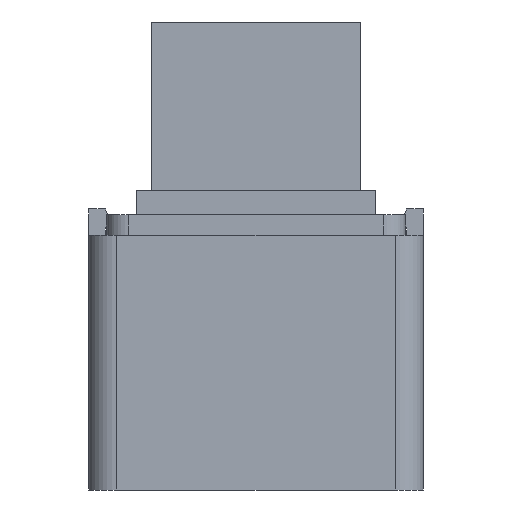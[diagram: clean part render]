
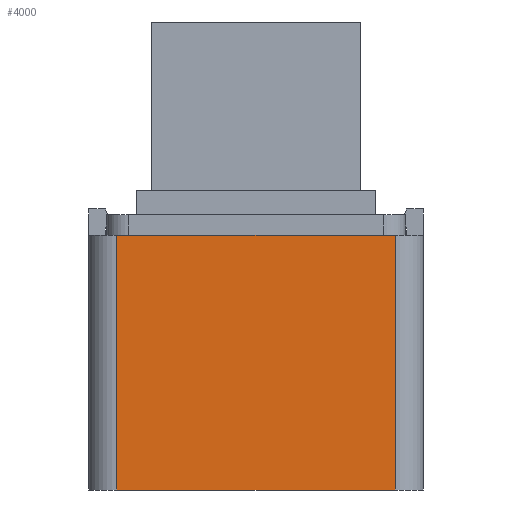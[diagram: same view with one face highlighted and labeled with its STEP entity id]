
A CAD part, front view. The second image highlights one B-rep face of the part: STEP entity #4000.
In plain terms, the highlighted planar face has unit normal (0, -1, 0).
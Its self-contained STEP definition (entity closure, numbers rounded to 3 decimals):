
#94 = PLANE('',#95);
#95 = AXIS2_PLACEMENT_3D('',#96,#97,#98);
#96 = CARTESIAN_POINT('',(-24.,-31.5,36.5));
#97 = DIRECTION('',(0.,0.,1.));
#98 = DIRECTION('',(1.,0.,0.));
#122 = CYLINDRICAL_SURFACE('',#123,4.);
#123 = AXIS2_PLACEMENT_3D('',#124,#125,#126);
#124 = CARTESIAN_POINT('',(-20.,-27.5,0.));
#125 = DIRECTION('',(0.,0.,1.));
#126 = DIRECTION('',(-1.,-0.,0.));
#150 = PLANE('',#151);
#151 = AXIS2_PLACEMENT_3D('',#152,#153,#154);
#152 = CARTESIAN_POINT('',(-24.,-31.5,0.));
#153 = DIRECTION('',(0.,0.,1.));
#154 = DIRECTION('',(1.,0.,0.));
#523 = VERTEX_POINT('',#524);
#524 = CARTESIAN_POINT('',(-20.,-31.5,36.5));
#546 = EDGE_CURVE('',#523,#547,#549,.T.);
#547 = VERTEX_POINT('',#548);
#548 = CARTESIAN_POINT('',(20.,-31.5,36.5));
#549 = SURFACE_CURVE('',#550,(#554,#561),.PCURVE_S1.);
#550 = LINE('',#551,#552);
#551 = CARTESIAN_POINT('',(-24.,-31.5,36.5));
#552 = VECTOR('',#553,1.);
#553 = DIRECTION('',(1.,0.,0.));
#554 = PCURVE('',#94,#555);
#555 = DEFINITIONAL_REPRESENTATION('',(#556),#560);
#556 = LINE('',#557,#558);
#557 = CARTESIAN_POINT('',(0.,0.));
#558 = VECTOR('',#559,1.);
#559 = DIRECTION('',(1.,0.));
#560 = ( GEOMETRIC_REPRESENTATION_CONTEXT(2) 
PARAMETRIC_REPRESENTATION_CONTEXT() REPRESENTATION_CONTEXT('2D SPACE',''
  ) );
#561 = PCURVE('',#562,#567);
#562 = PLANE('',#563);
#563 = AXIS2_PLACEMENT_3D('',#564,#565,#566);
#564 = CARTESIAN_POINT('',(-24.,-31.5,0.));
#565 = DIRECTION('',(0.,1.,0.));
#566 = DIRECTION('',(0.,0.,1.));
#567 = DEFINITIONAL_REPRESENTATION('',(#568),#572);
#568 = LINE('',#569,#570);
#569 = CARTESIAN_POINT('',(36.5,0.));
#570 = VECTOR('',#571,1.);
#571 = DIRECTION('',(0.,1.));
#572 = ( GEOMETRIC_REPRESENTATION_CONTEXT(2) 
PARAMETRIC_REPRESENTATION_CONTEXT() REPRESENTATION_CONTEXT('2D SPACE',''
  ) );
#595 = CYLINDRICAL_SURFACE('',#596,4.);
#596 = AXIS2_PLACEMENT_3D('',#597,#598,#599);
#597 = CARTESIAN_POINT('',(20.,-27.5,0.));
#598 = DIRECTION('',(0.,0.,1.));
#599 = DIRECTION('',(1.,0.,-0.));
#1107 = VERTEX_POINT('',#1108);
#1108 = CARTESIAN_POINT('',(-20.,-31.5,0.));
#1130 = EDGE_CURVE('',#1107,#523,#1131,.T.);
#1131 = SURFACE_CURVE('',#1132,(#1136,#1143),.PCURVE_S1.);
#1132 = LINE('',#1133,#1134);
#1133 = CARTESIAN_POINT('',(-20.,-31.5,0.));
#1134 = VECTOR('',#1135,1.);
#1135 = DIRECTION('',(0.,0.,1.));
#1136 = PCURVE('',#122,#1137);
#1137 = DEFINITIONAL_REPRESENTATION('',(#1138),#1142);
#1138 = LINE('',#1139,#1140);
#1139 = CARTESIAN_POINT('',(1.571,0.));
#1140 = VECTOR('',#1141,1.);
#1141 = DIRECTION('',(0.,1.));
#1142 = ( GEOMETRIC_REPRESENTATION_CONTEXT(2) 
PARAMETRIC_REPRESENTATION_CONTEXT() REPRESENTATION_CONTEXT('2D SPACE',''
  ) );
#1143 = PCURVE('',#562,#1144);
#1144 = DEFINITIONAL_REPRESENTATION('',(#1145),#1149);
#1145 = LINE('',#1146,#1147);
#1146 = CARTESIAN_POINT('',(0.,4.));
#1147 = VECTOR('',#1148,1.);
#1148 = DIRECTION('',(1.,0.));
#1149 = ( GEOMETRIC_REPRESENTATION_CONTEXT(2) 
PARAMETRIC_REPRESENTATION_CONTEXT() REPRESENTATION_CONTEXT('2D SPACE',''
  ) );
#1158 = EDGE_CURVE('',#1107,#1159,#1161,.T.);
#1159 = VERTEX_POINT('',#1160);
#1160 = CARTESIAN_POINT('',(20.,-31.5,0.));
#1161 = SURFACE_CURVE('',#1162,(#1166,#1173),.PCURVE_S1.);
#1162 = LINE('',#1163,#1164);
#1163 = CARTESIAN_POINT('',(-24.,-31.5,0.));
#1164 = VECTOR('',#1165,1.);
#1165 = DIRECTION('',(1.,0.,0.));
#1166 = PCURVE('',#150,#1167);
#1167 = DEFINITIONAL_REPRESENTATION('',(#1168),#1172);
#1168 = LINE('',#1169,#1170);
#1169 = CARTESIAN_POINT('',(0.,0.));
#1170 = VECTOR('',#1171,1.);
#1171 = DIRECTION('',(1.,0.));
#1172 = ( GEOMETRIC_REPRESENTATION_CONTEXT(2) 
PARAMETRIC_REPRESENTATION_CONTEXT() REPRESENTATION_CONTEXT('2D SPACE',''
  ) );
#1173 = PCURVE('',#562,#1174);
#1174 = DEFINITIONAL_REPRESENTATION('',(#1175),#1179);
#1175 = LINE('',#1176,#1177);
#1176 = CARTESIAN_POINT('',(0.,0.));
#1177 = VECTOR('',#1178,1.);
#1178 = DIRECTION('',(0.,1.));
#1179 = ( GEOMETRIC_REPRESENTATION_CONTEXT(2) 
PARAMETRIC_REPRESENTATION_CONTEXT() REPRESENTATION_CONTEXT('2D SPACE',''
  ) );
#3978 = EDGE_CURVE('',#1159,#547,#3979,.T.);
#3979 = SURFACE_CURVE('',#3980,(#3984,#3991),.PCURVE_S1.);
#3980 = LINE('',#3981,#3982);
#3981 = CARTESIAN_POINT('',(20.,-31.5,0.));
#3982 = VECTOR('',#3983,1.);
#3983 = DIRECTION('',(0.,0.,1.));
#3984 = PCURVE('',#595,#3985);
#3985 = DEFINITIONAL_REPRESENTATION('',(#3986),#3990);
#3986 = LINE('',#3987,#3988);
#3987 = CARTESIAN_POINT('',(-1.571,0.));
#3988 = VECTOR('',#3989,1.);
#3989 = DIRECTION('',(-0.,1.));
#3990 = ( GEOMETRIC_REPRESENTATION_CONTEXT(2) 
PARAMETRIC_REPRESENTATION_CONTEXT() REPRESENTATION_CONTEXT('2D SPACE',''
  ) );
#3991 = PCURVE('',#562,#3992);
#3992 = DEFINITIONAL_REPRESENTATION('',(#3993),#3997);
#3993 = LINE('',#3994,#3995);
#3994 = CARTESIAN_POINT('',(0.,44.));
#3995 = VECTOR('',#3996,1.);
#3996 = DIRECTION('',(1.,0.));
#3997 = ( GEOMETRIC_REPRESENTATION_CONTEXT(2) 
PARAMETRIC_REPRESENTATION_CONTEXT() REPRESENTATION_CONTEXT('2D SPACE',''
  ) );
#4000 = ADVANCED_FACE('',(#4001),#562,.F.);
#4001 = FACE_BOUND('',#4002,.F.);
#4002 = EDGE_LOOP('',(#4003,#4004,#4005,#4006));
#4003 = ORIENTED_EDGE('',*,*,#1158,.F.);
#4004 = ORIENTED_EDGE('',*,*,#1130,.T.);
#4005 = ORIENTED_EDGE('',*,*,#546,.T.);
#4006 = ORIENTED_EDGE('',*,*,#3978,.F.);
